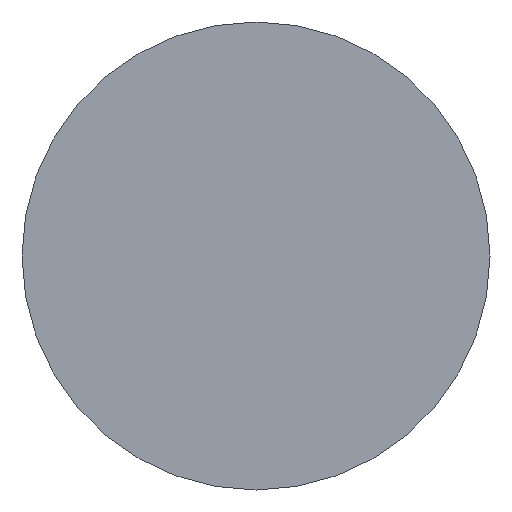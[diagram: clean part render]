
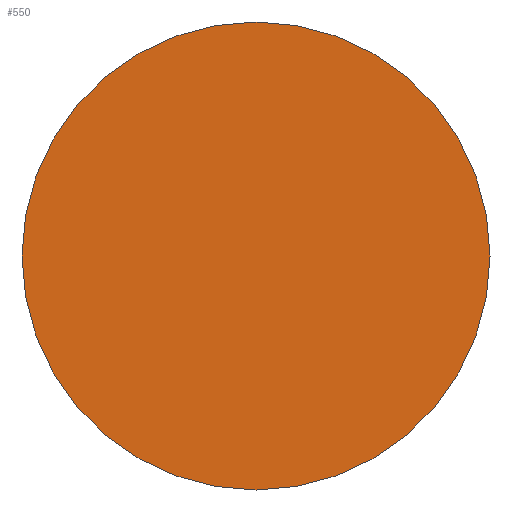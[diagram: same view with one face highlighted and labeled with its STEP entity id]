
A CAD part, left-side view. The second image highlights one B-rep face of the part: STEP entity #550.
In plain terms, the highlighted planar face has unit normal (-1, 0, 0).
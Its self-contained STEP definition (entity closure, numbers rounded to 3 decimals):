
#31=PLANE('',#610);
#37=FACE_OUTER_BOUND('',#66,.T.);
#66=EDGE_LOOP('',(#379,#380));
#139=CIRCLE('',#611,2.745);
#140=CIRCLE('',#612,2.745);
#209=VERTEX_POINT('',#943);
#210=VERTEX_POINT('',#944);
#277=EDGE_CURVE('',#209,#210,#139,.T.);
#278=EDGE_CURVE('',#210,#209,#140,.T.);
#379=ORIENTED_EDGE('',*,*,#277,.F.);
#380=ORIENTED_EDGE('',*,*,#278,.F.);
#550=ADVANCED_FACE('',(#37),#31,.T.);
#610=AXIS2_PLACEMENT_3D('',#942,#730,#731);
#611=AXIS2_PLACEMENT_3D('',#945,#732,#733);
#612=AXIS2_PLACEMENT_3D('',#946,#734,#735);
#730=DIRECTION('center_axis',(-1.,0.,0.));
#731=DIRECTION('ref_axis',(0.,0.,1.));
#732=DIRECTION('center_axis',(1.,0.,0.));
#733=DIRECTION('ref_axis',(0.,0.,-1.));
#734=DIRECTION('center_axis',(1.,0.,0.));
#735=DIRECTION('ref_axis',(0.,0.,-1.));
#942=CARTESIAN_POINT('Origin',(0.,2.745,0.));
#943=CARTESIAN_POINT('',(0.,2.745,0.));
#944=CARTESIAN_POINT('',(0.,-2.745,0.));
#945=CARTESIAN_POINT('Origin',(0.,0.,0.));
#946=CARTESIAN_POINT('Origin',(0.,0.,0.));
